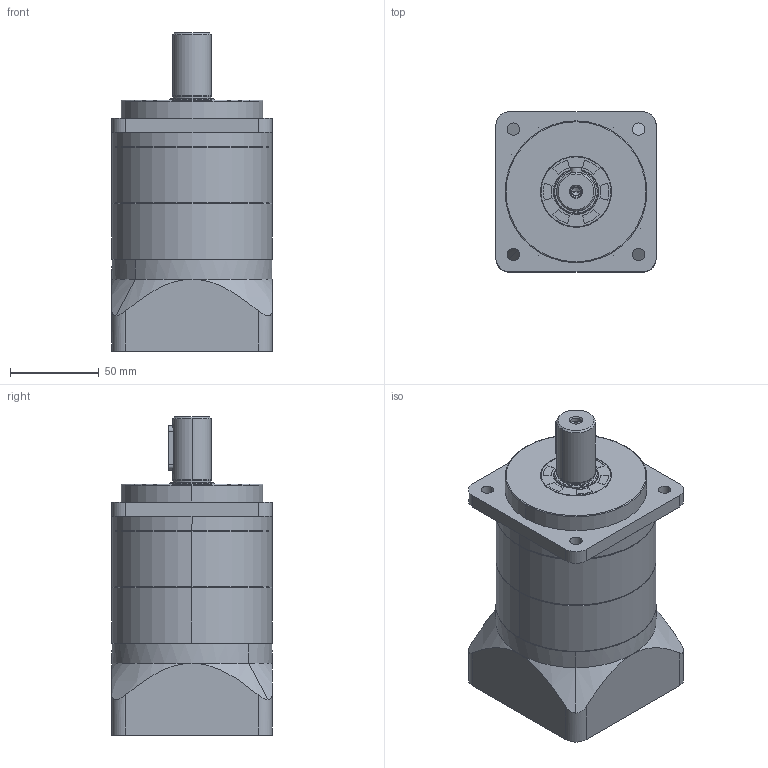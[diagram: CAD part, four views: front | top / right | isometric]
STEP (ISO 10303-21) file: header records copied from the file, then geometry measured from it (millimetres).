
FILE_DESCRIPTION (( 'STEP AP203' ), '1' );
FILE_NAME ('SA90-L2(16-80-100-M6).STEP', '2021-12-14T05:28:12', ( '' ), ( '' ), 'SwSTEP 2.0', 'SolidWorks 2016', '' );
FILE_SCHEMA (( 'CONFIG_CONTROL_DESIGN' ));
Length unit declared in the file: millimetre
Products named in the file (9): SN90-(80-100-M6); SN90-48x27x15-M6; 90-(o19-16x26); SN90; SN90-25x40x5; SN90-(22x37-6x25); SN90-(19); SA90-(80x10-100-7); SA90-L2(16-80-100-M6)
Assembly tree (9 placements, depth 2):
  SA90-L2(16-80-100-M6)
    SA90-(80x10-100-7)
    SN90-25x40x5
    SN90-(22x37-6x25)
    SN90  x2
    SN90-(80-100-M6)
    SN90-(19)
    SN90-48x27x15-M6
    90-(o19-16x26)
Bounding box: 90.5 x 90.5 x 179.5 mm (x, y, z)
Volume: 891266.3 mm3; surface area: 156411.5 mm2
Topology: 11 solids, 11 shells, 458 faces, 1192 edges, 759 vertices
Faces by surface type: cylinder 253, plane 118, cone 51, bspline 30, torus 6
Entity records: 31350 total; most frequent: CARTESIAN_POINT 20069, ORIENTED_EDGE 2240, DIRECTION 2111, EDGE_CURVE 1120, AXIS2_PLACEMENT_3D 826, VERTEX_POINT 727, EDGE_LOOP 509, LINE 459
